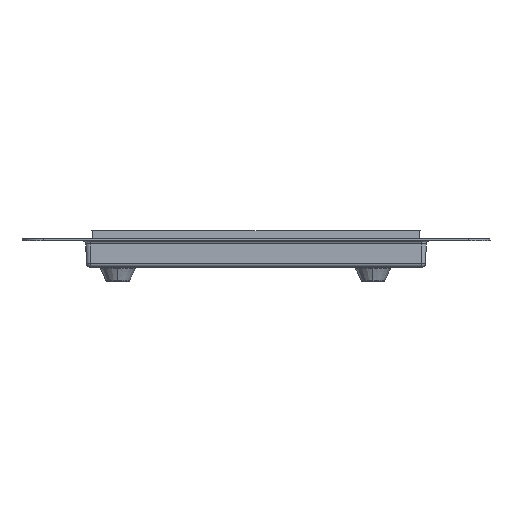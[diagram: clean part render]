
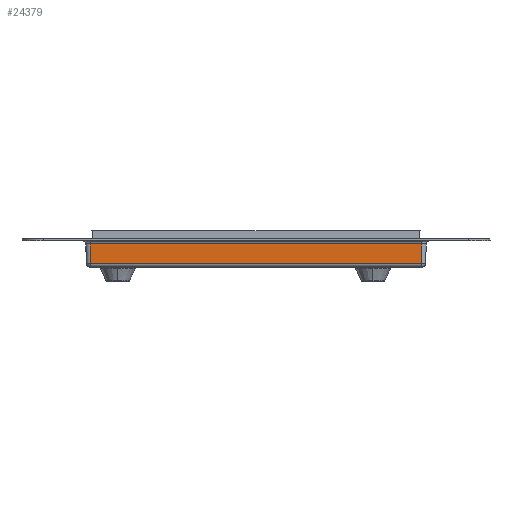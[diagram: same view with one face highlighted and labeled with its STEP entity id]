
A CAD part, left-side view. The second image highlights one B-rep face of the part: STEP entity #24379.
In plain terms, the highlighted planar face has unit normal (-1, 0, -0.018).
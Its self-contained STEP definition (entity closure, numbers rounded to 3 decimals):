
#4836=CARTESIAN_POINT('',(-114.974,77.975,
-2.474));
#4849=DIRECTION('',(0.,-1.,0.));
#4850=VECTOR('',#4849,155.95);
#4851=CARTESIAN_POINT('',(-114.974,77.975,
-2.474));
#4852=LINE('12782',#4851,#4850);
#4856=DIRECTION('',(0.017,0.017,-1.));
#4857=VECTOR('',#4856,9.064);
#4858=CARTESIAN_POINT('',(-114.974,-77.975,
-2.474));
#4859=LINE('12788',#4858,#4857);
#4863=DIRECTION('',(0.,1.,0.));
#4864=VECTOR('',#4863,155.633);
#4865=CARTESIAN_POINT('',(-114.816,-77.816,
-11.535));
#4866=LINE('12302',#4865,#4864);
#4870=DIRECTION('',(0.017,-0.017,-1.));
#4871=VECTOR('',#4870,9.064);
#4872=CARTESIAN_POINT('',(-114.974,77.975,
-2.474));
#4873=LINE('12791',#4872,#4871);
#18399=CARTESIAN_POINT('',(-114.816,-77.816,
-11.535));
#18400=VERTEX_POINT('',#18399);
#18403=CARTESIAN_POINT('',(-114.816,77.816,
-11.535));
#18404=VERTEX_POINT('',#18403);
#18427=VERTEX_POINT('',#4836);
#18429=CARTESIAN_POINT('',(-114.974,-77.975,
-2.474));
#18430=VERTEX_POINT('',#18429);
#24365=CARTESIAN_POINT('',(-115.,85.375,-1.));
#24366=DIRECTION('',(-1.,0.,-0.017));
#24367=DIRECTION('',(0.,1.,0.));
#24368=AXIS2_PLACEMENT_3D('',#24365,#24366,#24367);
#24369=PLANE('8859',#24368);
#24371=ORIENTED_EDGE('12782',*,*,#24370,.T.);
#24373=ORIENTED_EDGE('12788',*,*,#24372,.T.);
#24375=ORIENTED_EDGE('12302',*,*,#24374,.T.);
#24376=ORIENTED_EDGE('12791',*,*,#24357,.F.);
#24377=EDGE_LOOP('8859',(#24371,#24373,#24375,#24376));
#24378=FACE_OUTER_BOUND('8859',#24377,.F.);
#24379=ADVANCED_FACE('8859',(#24378),#24369,.T.);
#24357=EDGE_CURVE('12791',#18427,#18404,#4873,.T.);
#24370=EDGE_CURVE('12782',#18427,#18430,#4852,.T.);
#24372=EDGE_CURVE('12788',#18430,#18400,#4859,.T.);
#24374=EDGE_CURVE('12302',#18400,#18404,#4866,.T.);
